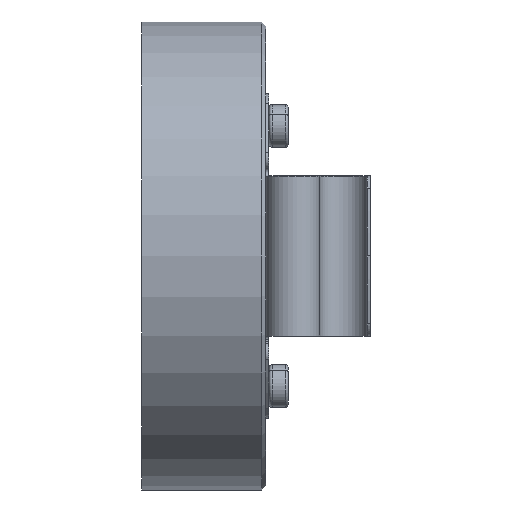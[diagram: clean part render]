
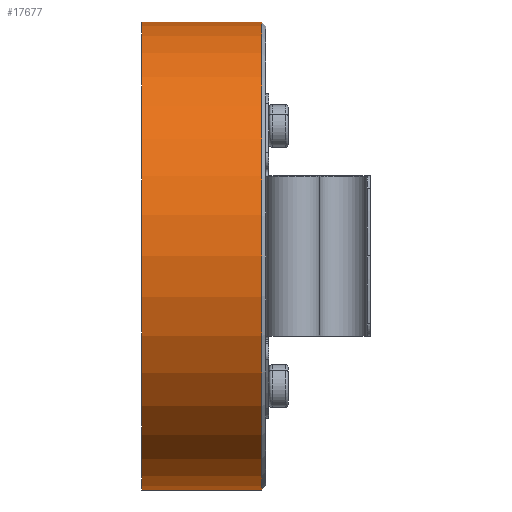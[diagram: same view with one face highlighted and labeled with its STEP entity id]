
A CAD part, left-side view. The second image highlights one B-rep face of the part: STEP entity #17677.
In plain terms, the highlighted cylindrical face has radius 29.25 mm (diameter 58.5 mm), a partial arc.
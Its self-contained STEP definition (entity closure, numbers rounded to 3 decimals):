
#592 = AXIS2_PLACEMENT_3D ( 'NONE', #28302, #20379, #31246 ) ;
#658 = VECTOR ( 'NONE', #14427, 1000. ) ;
#1098 = LINE ( 'NONE', #24720, #658 ) ;
#2372 = DIRECTION ( 'NONE',  ( 0., 0., 1. ) ) ;
#3271 = EDGE_CURVE ( 'NONE', #11165, #27973, #1098, .T. ) ;
#3423 = CIRCLE ( 'NONE', #26889, 29.25 ) ;
#3502 = EDGE_CURVE ( 'NONE', #11165, #31798, #8099, .T. ) ;
#4712 = DIRECTION ( 'NONE',  ( 0., 1., 0. ) ) ;
#4769 = VERTEX_POINT ( 'NONE', #25650 ) ;
#5952 = CARTESIAN_POINT ( 'NONE',  ( 0., 32.8, 29.25 ) ) ;
#6085 = ORIENTED_EDGE ( 'NONE', *, *, #15037, .T. ) ;
#6170 = DIRECTION ( 'NONE',  ( 0., 0., 1. ) ) ;
#7062 = ORIENTED_EDGE ( 'NONE', *, *, #3271, .F. ) ;
#7216 = ORIENTED_EDGE ( 'NONE', *, *, #26426, .F. ) ;
#8099 = CIRCLE ( 'NONE', #592, 29.25 ) ;
#8821 = DIRECTION ( 'NONE',  ( 0., 1., 0. ) ) ;
#10762 = ORIENTED_EDGE ( 'NONE', *, *, #3502, .T. ) ;
#11165 = VERTEX_POINT ( 'NONE', #20245 ) ;
#12750 = CARTESIAN_POINT ( 'NONE',  ( 0., 15.5, -29.25 ) ) ;
#12854 = LINE ( 'NONE', #5952, #31206 ) ;
#13068 = AXIS2_PLACEMENT_3D ( 'NONE', #18916, #8821, #6170 ) ;
#13862 = EDGE_LOOP ( 'NONE', ( #7062, #10762, #6085, #7216 ) ) ;
#14427 = DIRECTION ( 'NONE',  ( 0., 1., 0. ) ) ;
#15037 = EDGE_CURVE ( 'NONE', #31798, #4769, #12854, .T. ) ;
#17677 = ADVANCED_FACE ( 'NONE', ( #32794 ), #20713, .T. ) ;
#18916 = CARTESIAN_POINT ( 'NONE',  ( 0., 32.8, 0. ) ) ;
#20245 = CARTESIAN_POINT ( 'NONE',  ( 0., 0.5, -29.25 ) ) ;
#20379 = DIRECTION ( 'NONE',  ( 0., 1., 0. ) ) ;
#20713 = CYLINDRICAL_SURFACE ( 'NONE', #13068, 29.25 ) ;
#23784 = CARTESIAN_POINT ( 'NONE',  ( 0., 15.5, 0. ) ) ;
#24720 = CARTESIAN_POINT ( 'NONE',  ( 0., 32.8, -29.25 ) ) ;
#25650 = CARTESIAN_POINT ( 'NONE',  ( 0., 15.5, 29.25 ) ) ;
#26426 = EDGE_CURVE ( 'NONE', #27973, #4769, #3423, .T. ) ;
#26889 = AXIS2_PLACEMENT_3D ( 'NONE', #23784, #4712, #2372 ) ;
#27973 = VERTEX_POINT ( 'NONE', #12750 ) ;
#28302 = CARTESIAN_POINT ( 'NONE',  ( 0., 0.5, 0. ) ) ;
#29684 = DIRECTION ( 'NONE',  ( 0., 1., 0. ) ) ;
#31206 = VECTOR ( 'NONE', #29684, 1000. ) ;
#31246 = DIRECTION ( 'NONE',  ( 0., 0., -1. ) ) ;
#31798 = VERTEX_POINT ( 'NONE', #33451 ) ;
#32794 = FACE_OUTER_BOUND ( 'NONE', #13862, .T. ) ;
#33451 = CARTESIAN_POINT ( 'NONE',  ( 0., 0.5, 29.25 ) ) ;
